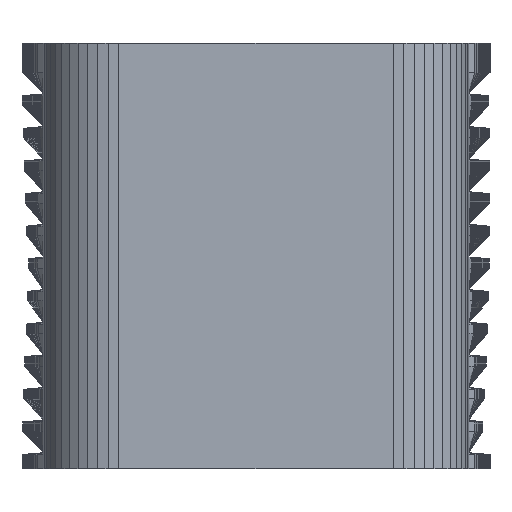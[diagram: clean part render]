
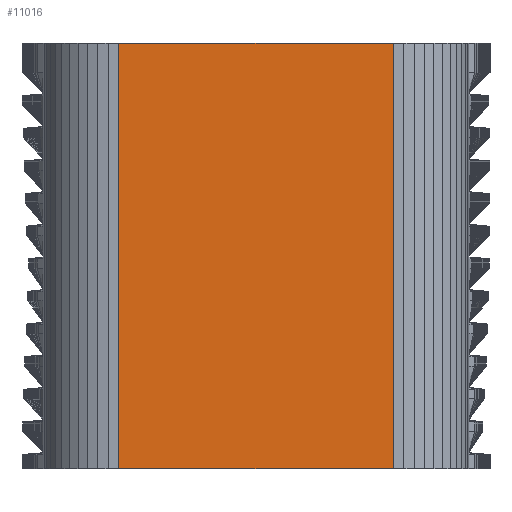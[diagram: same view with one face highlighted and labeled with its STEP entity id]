
A CAD part, left-side view. The second image highlights one B-rep face of the part: STEP entity #11016.
In plain terms, the highlighted planar face has unit normal (-1, 0, 0).
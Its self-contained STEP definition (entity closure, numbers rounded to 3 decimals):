
#44 = PLANE('',#45);
#45 = AXIS2_PLACEMENT_3D('',#46,#47,#48);
#46 = CARTESIAN_POINT('',(50.,45.,0.));
#47 = DIRECTION('',(0.,0.,1.));
#48 = DIRECTION('',(-0.808,-0.589,0.));
#1172 = PLANE('',#1173);
#1173 = AXIS2_PLACEMENT_3D('',#1174,#1175,#1176);
#1174 = CARTESIAN_POINT('',(50.,45.,90.));
#1175 = DIRECTION('',(0.,0.,1.));
#1176 = DIRECTION('',(-0.808,-0.589,0.));
#10929 = PLANE('',#10930);
#10930 = AXIS2_PLACEMENT_3D('',#10931,#10932,#10933);
#10931 = CARTESIAN_POINT('',(-66.,-29.,3.));
#10932 = DIRECTION('',(-0.997,-0.071,0.));
#10933 = DIRECTION('',(0.071,-0.997,0.));
#10945 = VERTEX_POINT('',#10946);
#10946 = CARTESIAN_POINT('',(-66.,-29.,0.));
#10969 = VERTEX_POINT('',#10970);
#10970 = CARTESIAN_POINT('',(-66.,-29.,90.));
#10991 = EDGE_CURVE('',#10945,#10969,#10992,.T.);
#10992 = SURFACE_CURVE('',#10993,(#10997,#11004),.PCURVE_S1.);
#10993 = LINE('',#10994,#10995);
#10994 = CARTESIAN_POINT('',(-66.,-29.,0.));
#10995 = VECTOR('',#10996,1.);
#10996 = DIRECTION('',(0.,0.,1.));
#10997 = PCURVE('',#10929,#10998);
#10998 = DEFINITIONAL_REPRESENTATION('',(#10999),#11003);
#10999 = LINE('',#11000,#11001);
#11000 = CARTESIAN_POINT('',(0.,-3.));
#11001 = VECTOR('',#11002,1.);
#11002 = DIRECTION('',(0.,1.));
#11003 = ( GEOMETRIC_REPRESENTATION_CONTEXT(2) 
PARAMETRIC_REPRESENTATION_CONTEXT() REPRESENTATION_CONTEXT('2D SPACE',''
  ) );
#11004 = PCURVE('',#11005,#11010);
#11005 = PLANE('',#11006);
#11006 = AXIS2_PLACEMENT_3D('',#11007,#11008,#11009);
#11007 = CARTESIAN_POINT('',(-66.,29.,3.));
#11008 = DIRECTION('',(-1.,0.,0.));
#11009 = DIRECTION('',(0.,-1.,0.));
#11010 = DEFINITIONAL_REPRESENTATION('',(#11011),#11015);
#11011 = LINE('',#11012,#11013);
#11012 = CARTESIAN_POINT('',(58.,-3.));
#11013 = VECTOR('',#11014,1.);
#11014 = DIRECTION('',(0.,1.));
#11015 = ( GEOMETRIC_REPRESENTATION_CONTEXT(2) 
PARAMETRIC_REPRESENTATION_CONTEXT() REPRESENTATION_CONTEXT('2D SPACE',''
  ) );
#11016 = ADVANCED_FACE('',(#11017),#11005,.T.);
#11017 = FACE_BOUND('',#11018,.T.);
#11018 = EDGE_LOOP('',(#11019,#11042,#11043,#11066));
#11019 = ORIENTED_EDGE('',*,*,#11020,.F.);
#11020 = EDGE_CURVE('',#10945,#11021,#11023,.T.);
#11021 = VERTEX_POINT('',#11022);
#11022 = CARTESIAN_POINT('',(-66.,29.,0.));
#11023 = SURFACE_CURVE('',#11024,(#11028,#11035),.PCURVE_S1.);
#11024 = LINE('',#11025,#11026);
#11025 = CARTESIAN_POINT('',(-66.,-29.,0.));
#11026 = VECTOR('',#11027,1.);
#11027 = DIRECTION('',(0.,1.,0.));
#11028 = PCURVE('',#11005,#11029);
#11029 = DEFINITIONAL_REPRESENTATION('',(#11030),#11034);
#11030 = LINE('',#11031,#11032);
#11031 = CARTESIAN_POINT('',(58.,-3.));
#11032 = VECTOR('',#11033,1.);
#11033 = DIRECTION('',(-1.,0.));
#11034 = ( GEOMETRIC_REPRESENTATION_CONTEXT(2) 
PARAMETRIC_REPRESENTATION_CONTEXT() REPRESENTATION_CONTEXT('2D SPACE',''
  ) );
#11035 = PCURVE('',#44,#11036);
#11036 = DEFINITIONAL_REPRESENTATION('',(#11037),#11041);
#11037 = LINE('',#11038,#11039);
#11038 = CARTESIAN_POINT('',(137.332,-8.487));
#11039 = VECTOR('',#11040,1.);
#11040 = DIRECTION('',(-0.589,-0.808));
#11041 = ( GEOMETRIC_REPRESENTATION_CONTEXT(2) 
PARAMETRIC_REPRESENTATION_CONTEXT() REPRESENTATION_CONTEXT('2D SPACE',''
  ) );
#11042 = ORIENTED_EDGE('',*,*,#10991,.T.);
#11043 = ORIENTED_EDGE('',*,*,#11044,.T.);
#11044 = EDGE_CURVE('',#10969,#11045,#11047,.T.);
#11045 = VERTEX_POINT('',#11046);
#11046 = CARTESIAN_POINT('',(-66.,29.,90.));
#11047 = SURFACE_CURVE('',#11048,(#11052,#11059),.PCURVE_S1.);
#11048 = LINE('',#11049,#11050);
#11049 = CARTESIAN_POINT('',(-66.,-29.,90.));
#11050 = VECTOR('',#11051,1.);
#11051 = DIRECTION('',(0.,1.,0.));
#11052 = PCURVE('',#11005,#11053);
#11053 = DEFINITIONAL_REPRESENTATION('',(#11054),#11058);
#11054 = LINE('',#11055,#11056);
#11055 = CARTESIAN_POINT('',(58.,87.));
#11056 = VECTOR('',#11057,1.);
#11057 = DIRECTION('',(-1.,0.));
#11058 = ( GEOMETRIC_REPRESENTATION_CONTEXT(2) 
PARAMETRIC_REPRESENTATION_CONTEXT() REPRESENTATION_CONTEXT('2D SPACE',''
  ) );
#11059 = PCURVE('',#1172,#11060);
#11060 = DEFINITIONAL_REPRESENTATION('',(#11061),#11065);
#11061 = LINE('',#11062,#11063);
#11062 = CARTESIAN_POINT('',(137.332,-8.487));
#11063 = VECTOR('',#11064,1.);
#11064 = DIRECTION('',(-0.589,-0.808));
#11065 = ( GEOMETRIC_REPRESENTATION_CONTEXT(2) 
PARAMETRIC_REPRESENTATION_CONTEXT() REPRESENTATION_CONTEXT('2D SPACE',''
  ) );
#11066 = ORIENTED_EDGE('',*,*,#11067,.F.);
#11067 = EDGE_CURVE('',#11021,#11045,#11068,.T.);
#11068 = SURFACE_CURVE('',#11069,(#11073,#11080),.PCURVE_S1.);
#11069 = LINE('',#11070,#11071);
#11070 = CARTESIAN_POINT('',(-66.,29.,0.));
#11071 = VECTOR('',#11072,1.);
#11072 = DIRECTION('',(0.,0.,1.));
#11073 = PCURVE('',#11005,#11074);
#11074 = DEFINITIONAL_REPRESENTATION('',(#11075),#11079);
#11075 = LINE('',#11076,#11077);
#11076 = CARTESIAN_POINT('',(0.,-3.));
#11077 = VECTOR('',#11078,1.);
#11078 = DIRECTION('',(0.,1.));
#11079 = ( GEOMETRIC_REPRESENTATION_CONTEXT(2) 
PARAMETRIC_REPRESENTATION_CONTEXT() REPRESENTATION_CONTEXT('2D SPACE',''
  ) );
#11080 = PCURVE('',#11081,#11086);
#11081 = PLANE('',#11082);
#11082 = AXIS2_PLACEMENT_3D('',#11083,#11084,#11085);
#11083 = CARTESIAN_POINT('',(-65.837,31.277,3.));
#11084 = DIRECTION('',(-0.997,0.071,0.));
#11085 = DIRECTION('',(-0.071,-0.997,0.));
#11086 = DEFINITIONAL_REPRESENTATION('',(#11087),#11091);
#11087 = LINE('',#11088,#11089);
#11088 = CARTESIAN_POINT('',(2.283,-3.));
#11089 = VECTOR('',#11090,1.);
#11090 = DIRECTION('',(0.,1.));
#11091 = ( GEOMETRIC_REPRESENTATION_CONTEXT(2) 
PARAMETRIC_REPRESENTATION_CONTEXT() REPRESENTATION_CONTEXT('2D SPACE',''
  ) );
